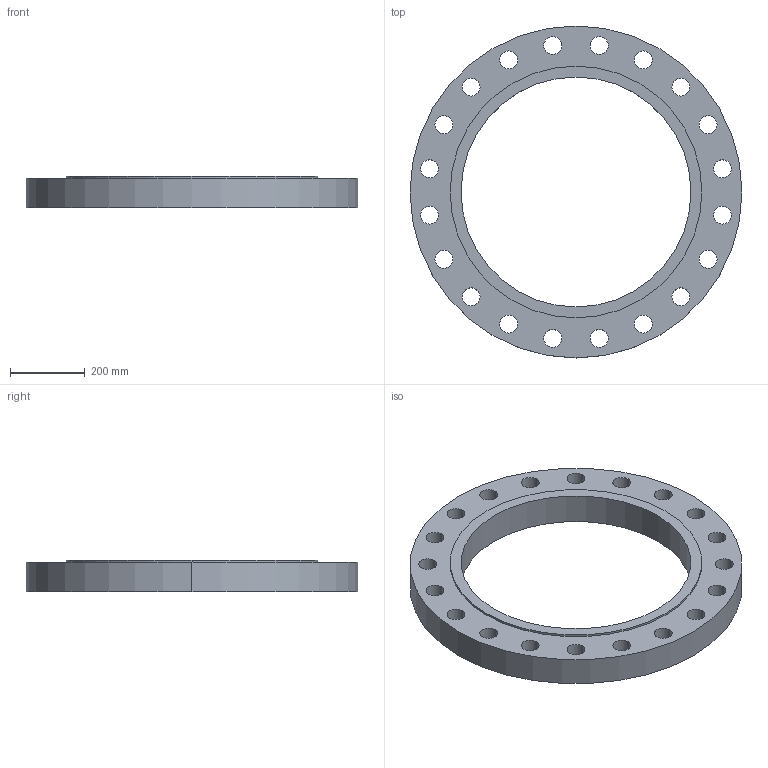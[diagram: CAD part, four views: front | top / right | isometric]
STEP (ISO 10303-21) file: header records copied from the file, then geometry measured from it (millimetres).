
FILE_DESCRIPTION (( 'STEP AP214' ), '1' );
FILE_NAME ('PN40 DN600 Type 01 - Type E Face.STEP', '2018-12-28T23:39:32', ( '' ), ( '' ), 'SwSTEP 2.0', 'SolidWorks 2019', '' );
FILE_SCHEMA (( 'AUTOMOTIVE_DESIGN' ));
Length unit declared in the file: millimetre
Products named in the file (1): PN40 DN600 Type 01 - Type E Face
Bounding box: 890 x 890 x 84 mm (x, y, z)
Volume: 22888417.7 mm3; surface area: 1205420.9 mm2
Topology: 1 solids, 1 shells, 49 faces, 138 edges, 92 vertices
Faces by surface type: cylinder 46, plane 3
Entity records: 1762 total; most frequent: DIRECTION 330, CARTESIAN_POINT 280, ORIENTED_EDGE 276, AXIS2_PLACEMENT_3D 142, EDGE_CURVE 138, CIRCLE 92, EDGE_LOOP 92, VERTEX_POINT 92
